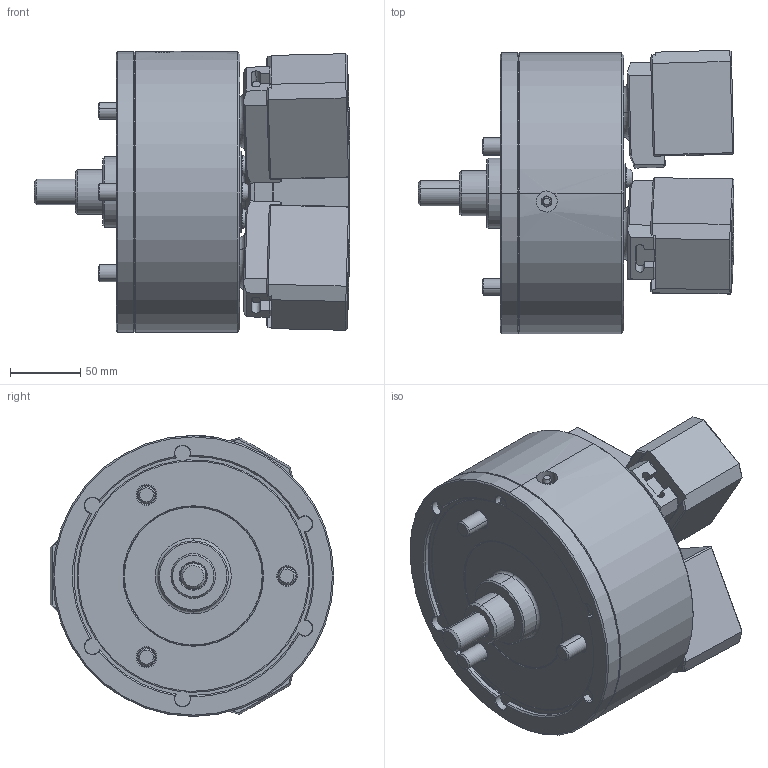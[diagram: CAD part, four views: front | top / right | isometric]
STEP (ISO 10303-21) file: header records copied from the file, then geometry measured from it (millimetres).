
FILE_DESCRIPTION (( 'STEP AP214' ), '1' );
FILE_NAME ('PW-08_OC_ID.STEP', '2019-10-16T09:42:54', ( '' ), ( '' ), 'SwSTEP 2.0', 'SolidWorks 2017', '' );
FILE_SCHEMA (( 'AUTOMOTIVE_DESIGN' ));
Length unit declared in the file: millimetre
Products named in the file (5): 結合_ID; 0030112020; 61P420336; 61P322995; PW-08_OC_ID
Assembly tree (13 placements, depth 2):
  PW-08_OC_ID
    61P322995  x3
    61P420336  x3
    0030112020  x6
    結合_ID
Bounding box: 224.79 x 201.81 x 200 mm (x, y, z)
Volume: 3460540 mm3; surface area: 316726.6 mm2
Topology: 13 solids, 14 shells, 1769 faces, 4378 edges, 2746 vertices
Faces by surface type: plane 859, cone 304, cylinder 275, bspline 265, torus 66
Entity records: 54564 total; most frequent: CARTESIAN_POINT 21031, ORIENTED_EDGE 7382, DIRECTION 6012, EDGE_CURVE 3691, VERTEX_POINT 2343, AXIS2_PLACEMENT_3D 2009, VECTOR 1994, LINE 1994
